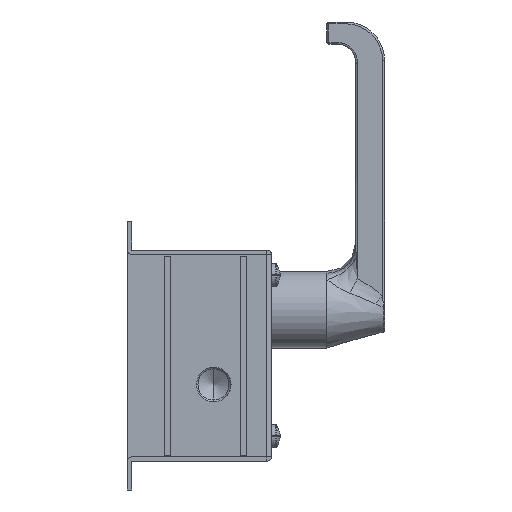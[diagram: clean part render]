
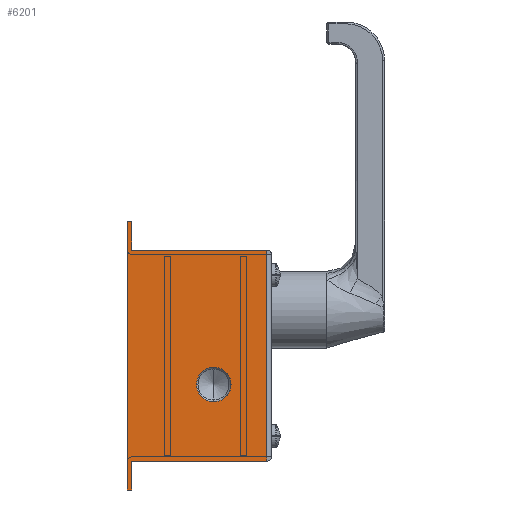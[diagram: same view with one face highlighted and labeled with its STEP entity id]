
A CAD part, front view. The second image highlights one B-rep face of the part: STEP entity #6201.
In plain terms, the highlighted planar face has unit normal (0, -1, 0).
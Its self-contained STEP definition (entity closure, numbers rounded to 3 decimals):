
#157 = LINE ( 'NONE', #158, #159 ) ;
#158 = CARTESIAN_POINT ( 'NONE',  ( 1.15, -95., 46. ) ) ;
#159 = VECTOR ( 'NONE', #160, 1000. ) ;
#160 = DIRECTION ( 'NONE',  ( -1., 0., 0. ) ) ;
#33050 = ORIENTED_EDGE ( 'NONE', *, *, #25326, .F. ) ;
#16879 = ORIENTED_EDGE ( 'NONE', *, *, #16030, .T. ) ;
#716 = CARTESIAN_POINT ( 'NONE',  ( 72.7, -95., 28.7 ) ) ;
#983 = CARTESIAN_POINT ( 'NONE',  ( 72.7, -95., -79. ) ) ;
#33749 = EDGE_CURVE ( 'NONE', #15526, #31109, #16314, .T. ) ;
#33842 = CARTESIAN_POINT ( 'NONE',  ( 0., -95., -94. ) ) ;
#34108 = LINE ( 'NONE', #34109, #34110 ) ;
#34109 = CARTESIAN_POINT ( 'NONE',  ( 0., -95., -24. ) ) ;
#34110 = VECTOR ( 'NONE', #34111, 1000. ) ;
#34111 = DIRECTION ( 'NONE',  ( 0., 0., -1. ) ) ;
#1358 = VERTEX_POINT ( 'NONE', #11510 ) ;
#1576 = CARTESIAN_POINT ( 'NONE',  ( 2.3, -95., -79. ) ) ;
#1638 = LINE ( 'NONE', #1639, #1640 ) ;
#1639 = CARTESIAN_POINT ( 'NONE',  ( 72.7, -95., -24. ) ) ;
#1640 = VECTOR ( 'NONE', #1641, 1000. ) ;
#1641 = DIRECTION ( 'NONE',  ( 0., 0., -1. ) ) ;
#1681 = VERTEX_POINT ( 'NONE', #12171 ) ;
#18086 = VERTEX_POINT ( 'NONE', #35827 ) ;
#2007 = EDGE_CURVE ( 'NONE', #1681, #1358, #12790, .T. ) ;
#2051 = LINE ( 'NONE', #2052, #2053 ) ;
#2052 = CARTESIAN_POINT ( 'NONE',  ( 36.35, -95., -79. ) ) ;
#2053 = VECTOR ( 'NONE', #2054, 1000. ) ;
#2054 = DIRECTION ( 'NONE',  ( -1., 0., 0. ) ) ;
#18582 = EDGE_CURVE ( 'NONE', #8724, #18086, #157, .T. ) ;
#2523 = VERTEX_POINT ( 'NONE', #13707 ) ;
#19435 = ORIENTED_EDGE ( 'NONE', *, *, #18582, .T. ) ;
#35827 = CARTESIAN_POINT ( 'NONE',  ( 0., -95., 46. ) ) ;
#19515 = VERTEX_POINT ( 'NONE', #716 ) ;
#19857 = VERTEX_POINT ( 'NONE', #983 ) ;
#20288 = VERTEX_POINT ( 'NONE', #1576 ) ;
#20371 = EDGE_CURVE ( 'NONE', #2523, #19857, #1638, .T. ) ;
#20625 = ORIENTED_EDGE ( 'NONE', *, *, #7402, .F. ) ;
#20807 = EDGE_CURVE ( 'NONE', #19857, #20288, #2051, .T. ) ;
#21329 = FACE_BOUND ( 'NONE', #5881, .T. ) ;
#21330 = FACE_OUTER_BOUND ( 'NONE', #22992, .T. ) ;
#21331 = PLANE ( 'NONE',  #21332 ) ;
#21332 = AXIS2_PLACEMENT_3D ( 'NONE', #21333, #21363, #21364 ) ;
#21333 = CARTESIAN_POINT ( 'NONE',  ( 74.154, -95., 48.8 ) ) ;
#21363 = DIRECTION ( 'NONE',  ( 0., 1., 0. ) ) ;
#21364 = DIRECTION ( 'NONE',  ( 0., 0., -1. ) ) ;
#5134 = ORIENTED_EDGE ( 'NONE', *, *, #2007, .F. ) ;
#21813 = ORIENTED_EDGE ( 'NONE', *, *, #7085, .F. ) ;
#5670 = LINE ( 'NONE', #5671, #5672 ) ;
#5671 = CARTESIAN_POINT ( 'NONE',  ( 2.3, -95., -24. ) ) ;
#5672 = VECTOR ( 'NONE', #5673, 1000. ) ;
#5673 = DIRECTION ( 'NONE',  ( 0., 0., -1. ) ) ;
#5881 = EDGE_LOOP ( 'NONE', ( #5134, #23476 ) ) ;
#6201 = ADVANCED_FACE ( 'NONE', ( #21329, #21330 ), #21331, .F. ) ;
#22992 = EDGE_LOOP ( 'NONE', ( #21813, #20625, #19435, #16879, #13959, #33050, #32304, #31192, #29999, #28814 ) ) ;
#23044 = LINE ( 'NONE', #23045, #23046 ) ;
#23045 = CARTESIAN_POINT ( 'NONE',  ( 36.35, -95., 31. ) ) ;
#23046 = VECTOR ( 'NONE', #23047, 1000. ) ;
#23047 = DIRECTION ( 'NONE',  ( 1., 0., 0. ) ) ;
#7085 = EDGE_CURVE ( 'NONE', #8597, #32762, #23044, .T. ) ;
#23476 = ORIENTED_EDGE ( 'NONE', *, *, #8888, .F. ) ;
#23529 = LINE ( 'NONE', #23530, #23531 ) ;
#23530 = CARTESIAN_POINT ( 'NONE',  ( 2.3, -95., -24. ) ) ;
#23531 = VECTOR ( 'NONE', #23532, 1000. ) ;
#23532 = DIRECTION ( 'NONE',  ( 0., 0., -1. ) ) ;
#7402 = EDGE_CURVE ( 'NONE', #8724, #8597, #23529, .T. ) ;
#7798 = EDGE_CURVE ( 'NONE', #19515, #2523, #24571, .T. ) ;
#24571 = LINE ( 'NONE', #24572, #24573 ) ;
#24572 = CARTESIAN_POINT ( 'NONE',  ( 72.7, -95., -24. ) ) ;
#24573 = VECTOR ( 'NONE', #24574, 1000. ) ;
#24574 = DIRECTION ( 'NONE',  ( 0., 0., -1. ) ) ;
#8597 = VERTEX_POINT ( 'NONE', #26230 ) ;
#8724 = VERTEX_POINT ( 'NONE', #26359 ) ;
#8888 = EDGE_CURVE ( 'NONE', #1358, #1681, #26446, .T. ) ;
#25326 = EDGE_CURVE ( 'NONE', #20288, #31109, #5670, .T. ) ;
#26230 = CARTESIAN_POINT ( 'NONE',  ( 2.3, -95., 31. ) ) ;
#26359 = CARTESIAN_POINT ( 'NONE',  ( 2.3, -95., 46. ) ) ;
#26446 = CIRCLE ( 'NONE', #26447, 9. ) ;
#26447 = AXIS2_PLACEMENT_3D ( 'NONE', #26448, #26478, #26479 ) ;
#26448 = CARTESIAN_POINT ( 'NONE',  ( 45., -95., -39. ) ) ;
#26478 = DIRECTION ( 'NONE',  ( 0., -1., 0. ) ) ;
#26479 = DIRECTION ( 'NONE',  ( 0., 0., 1. ) ) ;
#11510 = CARTESIAN_POINT ( 'NONE',  ( 45., -95., -48. ) ) ;
#11954 = LINE ( 'NONE', #11955, #11956 ) ;
#11955 = CARTESIAN_POINT ( 'NONE',  ( 72.7, -95., -24. ) ) ;
#11956 = VECTOR ( 'NONE', #11957, 1000. ) ;
#11957 = DIRECTION ( 'NONE',  ( 0., 0., -1. ) ) ;
#12040 = CARTESIAN_POINT ( 'NONE',  ( 2.3, -95., -94. ) ) ;
#12171 = CARTESIAN_POINT ( 'NONE',  ( 45., -95., -30. ) ) ;
#28814 = ORIENTED_EDGE ( 'NONE', *, *, #31065, .F. ) ;
#12790 = CIRCLE ( 'NONE', #12791, 9. ) ;
#12791 = AXIS2_PLACEMENT_3D ( 'NONE', #12792, #12793, #12794 ) ;
#12792 = CARTESIAN_POINT ( 'NONE',  ( 45., -95., -39. ) ) ;
#12793 = DIRECTION ( 'NONE',  ( 0., -1., 0. ) ) ;
#12794 = DIRECTION ( 'NONE',  ( 0., 0., 1. ) ) ;
#29999 = ORIENTED_EDGE ( 'NONE', *, *, #7798, .F. ) ;
#13707 = CARTESIAN_POINT ( 'NONE',  ( 72.7, -95., -76.7 ) ) ;
#13959 = ORIENTED_EDGE ( 'NONE', *, *, #33749, .T. ) ;
#13995 = CARTESIAN_POINT ( 'NONE',  ( 72.7, -95., 31. ) ) ;
#31065 = EDGE_CURVE ( 'NONE', #32762, #19515, #11954, .T. ) ;
#31109 = VERTEX_POINT ( 'NONE', #12040 ) ;
#31192 = ORIENTED_EDGE ( 'NONE', *, *, #20371, .F. ) ;
#15526 = VERTEX_POINT ( 'NONE', #33842 ) ;
#32304 = ORIENTED_EDGE ( 'NONE', *, *, #20807, .F. ) ;
#16030 = EDGE_CURVE ( 'NONE', #18086, #15526, #34108, .T. ) ;
#16314 = LINE ( 'NONE', #16315, #16316 ) ;
#16315 = CARTESIAN_POINT ( 'NONE',  ( 1.15, -95., -94. ) ) ;
#16316 = VECTOR ( 'NONE', #16317, 1000. ) ;
#16317 = DIRECTION ( 'NONE',  ( 1., 0., 0. ) ) ;
#32762 = VERTEX_POINT ( 'NONE', #13995 ) ;
